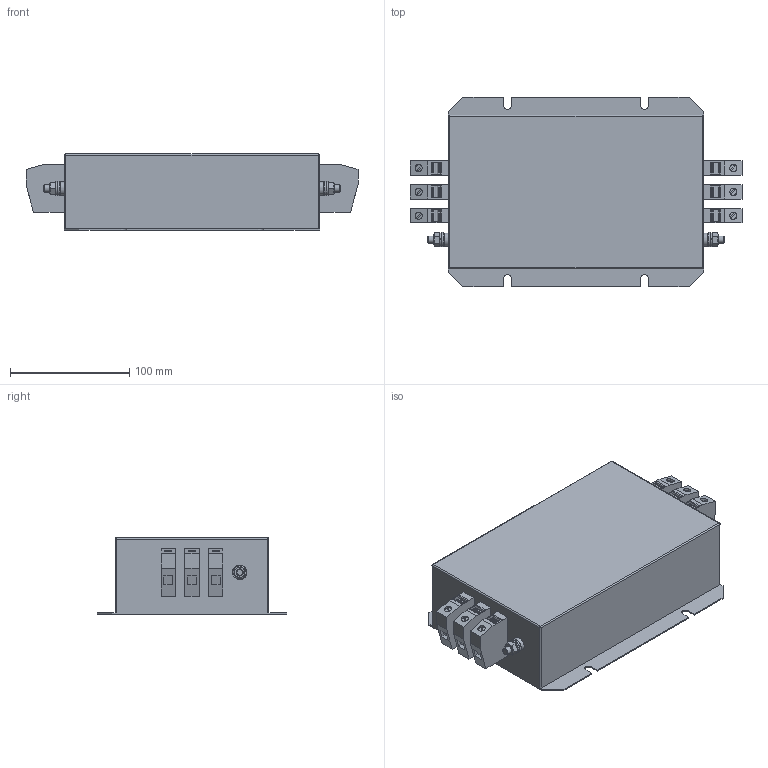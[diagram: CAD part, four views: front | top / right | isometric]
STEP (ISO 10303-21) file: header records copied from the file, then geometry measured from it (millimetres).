
FILE_DESCRIPTION((''),'2;1');
FILE_NAME('P:\Construction\INVENTOR_Projektedaten\HousingDesign\FN3120H-50-53.stp','2013-10-22T11:40:16',('Samuel.Meier'),(''),'Autodesk Inventor 2013','Autodesk Inventor 2013','');
FILE_SCHEMA(('AUTOMOTIVE_DESIGN { 1 0 10303 214 1 1 1 1 }'));
Length unit declared in the file: millimetre
Products named in the file (1): FN3120H-50-53
Bounding box: 278.6 x 159 x 64 mm (x, y, z)
Volume: 1857914.3 mm3; surface area: 132810.2 mm2
Topology: 1 solids, 33 shells, 456 faces, 1046 edges, 690 vertices
Faces by surface type: plane 336, cylinder 108, cone 8, sphere 4
Full cylindrical faces by diameter (mm): 3 x6, 3.3 x6, 6 x6, 6.2 x6, 6.4 x2, 8 x2, 11.05 x2, 12 x2
Entity records: 12930 total; most frequent: CARTESIAN_POINT 2181, DIRECTION 2138, ORIENTED_EDGE 1992, EDGE_CURVE 996, VECTOR 720, LINE 720, AXIS2_PLACEMENT_3D 709, VERTEX_POINT 680
